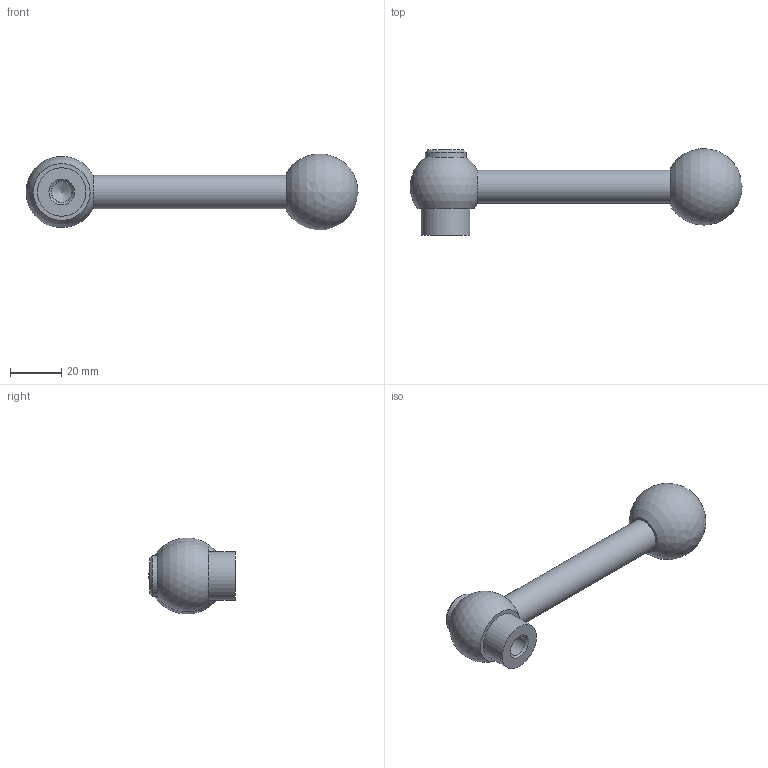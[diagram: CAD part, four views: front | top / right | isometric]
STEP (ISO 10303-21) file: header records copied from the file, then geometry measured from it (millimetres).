
FILE_DESCRIPTION( ( 'STEP AP203' ), '1' );
FILE_NAME( 'C:/Temp/Ganter_Step_05_03_2020/data/2_1/gn_6337_3/gn_6337_3_mb/gn_6337_3_mb_m/Adjustable clamping lever GN 6337.3-28-M10-M.stp', '2020-03-05T11:41:10', ( 'License CC BY-ND 4.0' ), ( 'CADENAS' ), ' ', 'PARTsolutions', ' ' );
FILE_SCHEMA( ( 'CONFIG_CONTROL_DESIGN' ) );
Length unit declared in the file: millimetre
Products named in the file (1): _Adjustable clamping lever GN 6337.3-28-M10-M
Bounding box: 129.99 x 33.93 x 29.7 mm (x, y, z)
Volume: 36386.2 mm3; surface area: 9238.8 mm2
Topology: 1 solids, 1 shells, 15 faces, 31 edges, 20 vertices
Faces by surface type: cylinder 5, plane 5, cone 3, sphere 2
Full cylindrical faces by diameter (mm): 8 x1, 8.376 x1, 13 x1, 15.969 x1, 19 x1
Entity records: 346 total; most frequent: DIRECTION 60, CARTESIAN_POINT 46, AXIS2_PLACEMENT_3D 30, EDGE_LOOP 28, ORIENTED_EDGE 28, FACE_OUTER_BOUND 21, VERTEX_POINT 16, ADVANCED_FACE 15
